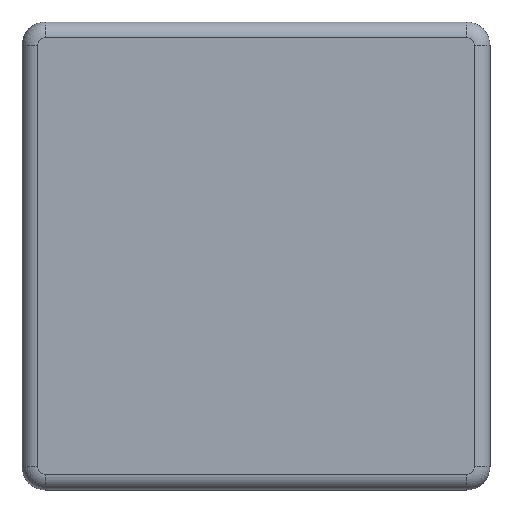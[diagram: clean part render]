
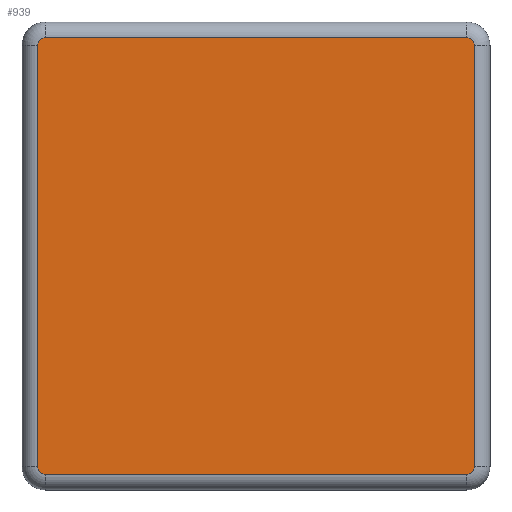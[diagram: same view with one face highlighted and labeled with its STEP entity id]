
A CAD part, front view. The second image highlights one B-rep face of the part: STEP entity #939.
In plain terms, the highlighted planar face has unit normal (0, -1, 0).
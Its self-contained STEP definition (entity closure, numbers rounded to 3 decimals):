
#97 = VECTOR ( 'NONE', #623, 1000. ) ;
#123 = VERTEX_POINT ( 'NONE', #1313 ) ;
#154 = VERTEX_POINT ( 'NONE', #1264 ) ;
#174 = CARTESIAN_POINT ( 'NONE',  ( -25.552, 0., -20.188 ) ) ;
#176 = EDGE_CURVE ( 'NONE', #665, #154, #954, .T. ) ;
#192 = DIRECTION ( 'NONE',  ( 0., -1., 0. ) ) ;
#213 = ORIENTED_EDGE ( 'NONE', *, *, #1251, .T. ) ;
#276 = CARTESIAN_POINT ( 'NONE',  ( 0., 0., 35.812 ) ) ;
#280 = EDGE_CURVE ( 'NONE', #997, #123, #748, .T. ) ;
#304 = CIRCLE ( 'NONE', #806, 1. ) ;
#311 = EDGE_CURVE ( 'NONE', #437, #789, #340, .T. ) ;
#327 = ORIENTED_EDGE ( 'NONE', *, *, #672, .T. ) ;
#340 = CIRCLE ( 'NONE', #1388, 1. ) ;
#346 = DIRECTION ( 'NONE',  ( 0., 0., 1. ) ) ;
#372 = VECTOR ( 'NONE', #1265, 1000. ) ;
#426 = DIRECTION ( 'NONE',  ( 0., 0., -1. ) ) ;
#437 = VERTEX_POINT ( 'NONE', #902 ) ;
#459 = CARTESIAN_POINT ( 'NONE',  ( 28.448, 0., 34.812 ) ) ;
#466 = VERTEX_POINT ( 'NONE', #530 ) ;
#510 = VECTOR ( 'NONE', #426, 1000. ) ;
#530 = CARTESIAN_POINT ( 'NONE',  ( -26.552, 0., 34.812 ) ) ;
#550 = LINE ( 'NONE', #1170, #510 ) ;
#575 = ORIENTED_EDGE ( 'NONE', *, *, #176, .T. ) ;
#576 = CIRCLE ( 'NONE', #671, 1. ) ;
#585 = DIRECTION ( 'NONE',  ( 0., 0., 1. ) ) ;
#599 = CARTESIAN_POINT ( 'NONE',  ( -25.552, 0., -19.188 ) ) ;
#603 = LINE ( 'NONE', #1071, #1500 ) ;
#606 = DIRECTION ( 'NONE',  ( 0., -1., 0. ) ) ;
#623 = DIRECTION ( 'NONE',  ( 0., 0., 1. ) ) ;
#636 = EDGE_LOOP ( 'NONE', ( #575, #327, #213, #1323, #945, #1497, #1168, #1074 ) ) ;
#665 = VERTEX_POINT ( 'NONE', #722 ) ;
#671 = AXIS2_PLACEMENT_3D ( 'NONE', #1340, #606, #1460 ) ;
#672 = EDGE_CURVE ( 'NONE', #154, #466, #576, .T. ) ;
#702 = DIRECTION ( 'NONE',  ( 1., 0., 0. ) ) ;
#722 = CARTESIAN_POINT ( 'NONE',  ( 28.448, 0., 35.812 ) ) ;
#748 = LINE ( 'NONE', #1241, #97 ) ;
#789 = VERTEX_POINT ( 'NONE', #174 ) ;
#806 = AXIS2_PLACEMENT_3D ( 'NONE', #459, #1322, #585 ) ;
#866 = VERTEX_POINT ( 'NONE', #1284 ) ;
#889 = EDGE_CURVE ( 'NONE', #789, #866, #603, .T. ) ;
#902 = CARTESIAN_POINT ( 'NONE',  ( -26.552, 0., -19.188 ) ) ;
#904 = EDGE_CURVE ( 'NONE', #123, #665, #304, .T. ) ;
#939 = ADVANCED_FACE ( 'NONE', ( #1420 ), #1449, .F. ) ;
#940 = CARTESIAN_POINT ( 'NONE',  ( 28.448, 0., -19.188 ) ) ;
#945 = ORIENTED_EDGE ( 'NONE', *, *, #889, .T. ) ;
#954 = LINE ( 'NONE', #276, #372 ) ;
#997 = VERTEX_POINT ( 'NONE', #1135 ) ;
#1036 = AXIS2_PLACEMENT_3D ( 'NONE', #940, #192, #1059 ) ;
#1050 = CIRCLE ( 'NONE', #1036, 1. ) ;
#1059 = DIRECTION ( 'NONE',  ( 0., 0., 1. ) ) ;
#1071 = CARTESIAN_POINT ( 'NONE',  ( 0., 0., -20.188 ) ) ;
#1074 = ORIENTED_EDGE ( 'NONE', *, *, #904, .T. ) ;
#1088 = DIRECTION ( 'NONE',  ( 0., 1., 0. ) ) ;
#1131 = DIRECTION ( 'NONE',  ( 0., 0., 1. ) ) ;
#1135 = CARTESIAN_POINT ( 'NONE',  ( 29.448, 0., -19.188 ) ) ;
#1168 = ORIENTED_EDGE ( 'NONE', *, *, #280, .T. ) ;
#1170 = CARTESIAN_POINT ( 'NONE',  ( -26.552, 0., 0. ) ) ;
#1241 = CARTESIAN_POINT ( 'NONE',  ( 29.448, 0., 0. ) ) ;
#1251 = EDGE_CURVE ( 'NONE', #466, #437, #550, .T. ) ;
#1264 = CARTESIAN_POINT ( 'NONE',  ( -25.552, 0., 35.812 ) ) ;
#1265 = DIRECTION ( 'NONE',  ( -1., 0., 0. ) ) ;
#1284 = CARTESIAN_POINT ( 'NONE',  ( 28.448, 0., -20.188 ) ) ;
#1313 = CARTESIAN_POINT ( 'NONE',  ( 29.448, 0., 34.812 ) ) ;
#1322 = DIRECTION ( 'NONE',  ( 0., -1., 0. ) ) ;
#1323 = ORIENTED_EDGE ( 'NONE', *, *, #311, .T. ) ;
#1340 = CARTESIAN_POINT ( 'NONE',  ( -25.552, 0., 34.812 ) ) ;
#1382 = EDGE_CURVE ( 'NONE', #866, #997, #1050, .T. ) ;
#1388 = AXIS2_PLACEMENT_3D ( 'NONE', #599, #1456, #1131 ) ;
#1420 = FACE_OUTER_BOUND ( 'NONE', #636, .T. ) ;
#1449 = PLANE ( 'NONE',  #1467 ) ;
#1456 = DIRECTION ( 'NONE',  ( 0., -1., 0. ) ) ;
#1460 = DIRECTION ( 'NONE',  ( 0., 0., 1. ) ) ;
#1467 = AXIS2_PLACEMENT_3D ( 'NONE', #1576, #1088, #346 ) ;
#1497 = ORIENTED_EDGE ( 'NONE', *, *, #1382, .T. ) ;
#1500 = VECTOR ( 'NONE', #702, 1000. ) ;
#1576 = CARTESIAN_POINT ( 'NONE',  ( 0., 0., 0. ) ) ;
